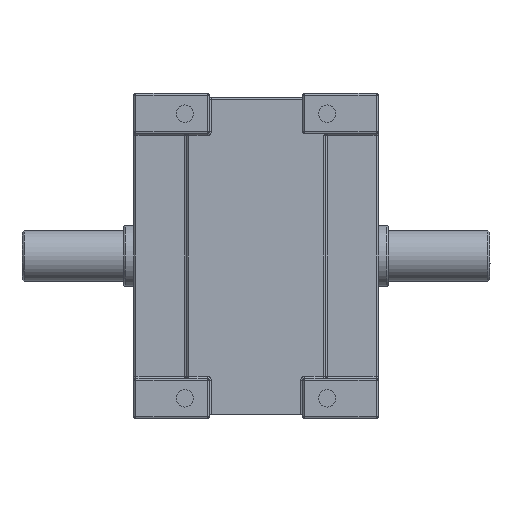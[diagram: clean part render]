
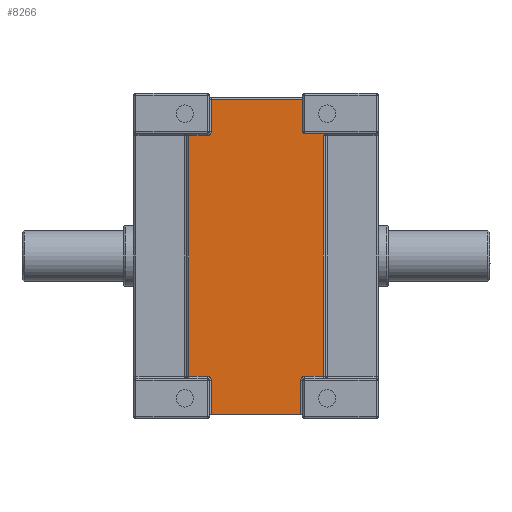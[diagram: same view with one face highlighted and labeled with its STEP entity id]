
A CAD part, front view. The second image highlights one B-rep face of the part: STEP entity #8266.
In plain terms, the highlighted planar face has unit normal (0, -1, 0).
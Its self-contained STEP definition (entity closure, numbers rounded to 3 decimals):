
#196=CARTESIAN_POINT('',(33.,-113.,-21.));
#197=CARTESIAN_POINT('',(33.142,-113.,-20.858));
#198=CARTESIAN_POINT('',(33.414,-113.,-20.588));
#199=CARTESIAN_POINT('',(33.839,-113.,-20.258));
#200=CARTESIAN_POINT('',(34.292,-113.,-20.046));
#201=CARTESIAN_POINT('',(34.585,-113.,-20.));
#202=CARTESIAN_POINT('',(34.732,-113.,-20.));
#214=CARTESIAN_POINT('',(34.732,-113.,-20.));
#251=DIRECTION('',(1.,0.,0.));
#252=VECTOR('',#251,10.732);
#253=CARTESIAN_POINT('',(24.,-113.,-20.));
#254=LINE('',#253,#252);
#255=DIRECTION('',(0.,0.,-1.));
#256=VECTOR('',#255,118.);
#257=CARTESIAN_POINT('',(33.,-113.,-21.));
#258=LINE('',#257,#256);
#259=DIRECTION('',(-1.,0.,0.));
#260=VECTOR('',#259,9.);
#261=CARTESIAN_POINT('',(33.,-113.,-139.));
#262=LINE('',#261,#260);
#263=CARTESIAN_POINT('',(24.,-113.,-141.));
#264=DIRECTION('',(0.,-1.,0.));
#265=DIRECTION('',(0.,0.,1.));
#266=AXIS2_PLACEMENT_3D('',#263,#264,#265);
#268=DIRECTION('',(0.,0.,-1.));
#269=VECTOR('',#268,17.);
#270=CARTESIAN_POINT('',(22.,-113.,-141.));
#271=LINE('',#270,#269);
#272=DIRECTION('',(0.,0.,1.));
#273=VECTOR('',#272,17.);
#274=CARTESIAN_POINT('',(-22.,-113.,-158.));
#275=LINE('',#274,#273);
#276=CARTESIAN_POINT('',(-24.,-113.,-141.));
#277=DIRECTION('',(0.,-1.,0.));
#278=DIRECTION('',(1.,0.,0.));
#279=AXIS2_PLACEMENT_3D('',#276,#277,#278);
#281=DIRECTION('',(-1.,0.,0.));
#282=VECTOR('',#281,9.);
#283=CARTESIAN_POINT('',(-24.,-113.,-139.));
#284=LINE('',#283,#282);
#285=DIRECTION('',(0.,0.,1.));
#286=VECTOR('',#285,118.);
#287=CARTESIAN_POINT('',(-33.,-113.,
-139.));
#288=LINE('',#287,#286);
#289=DIRECTION('',(-1.,0.,0.));
#290=VECTOR('',#289,9.);
#291=CARTESIAN_POINT('',(-24.,-113.,-21.));
#292=LINE('',#291,#290);
#293=CARTESIAN_POINT('',(-24.,-113.,-19.));
#294=DIRECTION('',(0.,1.,0.));
#295=DIRECTION('',(1.,0.,0.));
#296=AXIS2_PLACEMENT_3D('',#293,#294,#295);
#298=DIRECTION('',(0.,0.,-1.));
#299=VECTOR('',#298,16.);
#300=CARTESIAN_POINT('',(-22.,-113.,-3.));
#301=LINE('',#300,#299);
#302=DIRECTION('',(1.,0.,0.));
#303=VECTOR('',#302,45.);
#304=CARTESIAN_POINT('',(-22.,-113.,-3.));
#305=LINE('',#304,#303);
#306=DIRECTION('',(0.,0.,1.));
#307=VECTOR('',#306,16.);
#308=CARTESIAN_POINT('',(23.,-113.,-19.));
#309=LINE('',#308,#307);
#1372=DIRECTION('',(-1.,0.,0.));
#1373=VECTOR('',#1372,44.);
#1374=CARTESIAN_POINT('',(22.,-113.,-158.));
#1375=LINE('',#1374,#1373);
#4517=CARTESIAN_POINT('',(24.,-113.,-19.));
#4518=DIRECTION('',(0.,1.,0.));
#4519=DIRECTION('',(0.,0.,-1.));
#4520=AXIS2_PLACEMENT_3D('',#4517,#4518,#4519);
#7124=CARTESIAN_POINT('',(23.,-113.,-3.));
#7126=VERTEX_POINT('',#7124);
#7133=CARTESIAN_POINT('',(23.,-113.,-19.));
#7134=VERTEX_POINT('',#7133);
#7135=CARTESIAN_POINT('',(24.,-113.,-20.));
#7136=VERTEX_POINT('',#7135);
#7187=CARTESIAN_POINT('',(22.,-113.,-141.));
#7188=CARTESIAN_POINT('',(22.,-113.,-158.));
#7189=VERTEX_POINT('',#7187);
#7190=VERTEX_POINT('',#7188);
#7195=CARTESIAN_POINT('',(24.,-113.,-139.));
#7196=VERTEX_POINT('',#7195);
#7199=CARTESIAN_POINT('',(33.,-113.,-139.));
#7200=VERTEX_POINT('',#7199);
#7205=CARTESIAN_POINT('',(-22.,-113.,-158.));
#7206=VERTEX_POINT('',#7205);
#7209=CARTESIAN_POINT('',(-33.,-113.,-139.));
#7211=VERTEX_POINT('',#7209);
#7215=CARTESIAN_POINT('',(-24.,-113.,-139.));
#7216=VERTEX_POINT('',#7215);
#7219=CARTESIAN_POINT('',(-22.,-113.,-141.));
#7220=VERTEX_POINT('',#7219);
#7225=VERTEX_POINT('',#214);
#7228=CARTESIAN_POINT('',(33.,-113.,-21.));
#7229=VERTEX_POINT('',#7228);
#7230=CARTESIAN_POINT('',(-33.,-113.,-21.));
#7232=VERTEX_POINT('',#7230);
#7238=CARTESIAN_POINT('',(-24.,-113.,-21.));
#7239=VERTEX_POINT('',#7238);
#7242=CARTESIAN_POINT('',(-22.,-113.,-19.));
#7243=VERTEX_POINT('',#7242);
#7246=CARTESIAN_POINT('',(-22.,-113.,-3.));
#7247=VERTEX_POINT('',#7246);
#8227=CARTESIAN_POINT('',(0.,-113.,0.));
#8228=DIRECTION('',(0.,-1.,0.));
#8229=DIRECTION('',(-1.,0.,0.));
#8230=AXIS2_PLACEMENT_3D('',#8227,#8228,#8229);
#8231=PLANE('',#8230);
#8232=ORIENTED_EDGE('',*,*,#8181,.T.);
#8233=ORIENTED_EDGE('',*,*,#8170,.F.);
#8235=ORIENTED_EDGE('',*,*,#8234,.T.);
#8237=ORIENTED_EDGE('',*,*,#8236,.T.);
#8239=ORIENTED_EDGE('',*,*,#8238,.T.);
#8241=ORIENTED_EDGE('',*,*,#8240,.T.);
#8243=ORIENTED_EDGE('',*,*,#8242,.T.);
#8245=ORIENTED_EDGE('',*,*,#8244,.T.);
#8247=ORIENTED_EDGE('',*,*,#8246,.T.);
#8249=ORIENTED_EDGE('',*,*,#8248,.T.);
#8251=ORIENTED_EDGE('',*,*,#8250,.T.);
#8253=ORIENTED_EDGE('',*,*,#8252,.F.);
#8255=ORIENTED_EDGE('',*,*,#8254,.F.);
#8257=ORIENTED_EDGE('',*,*,#8256,.F.);
#8259=ORIENTED_EDGE('',*,*,#8258,.T.);
#8261=ORIENTED_EDGE('',*,*,#8260,.F.);
#8263=ORIENTED_EDGE('',*,*,#8262,.F.);
#8264=EDGE_LOOP('',(#8232,#8233,#8235,#8237,#8239,#8241,#8243,#8245,#8247,#8249,
#8251,#8253,#8255,#8257,#8259,#8261,#8263));
#8265=FACE_OUTER_BOUND('',#8264,.F.);
#203=B_SPLINE_CURVE_WITH_KNOTS('',3,(#196,#197,#198,#199,#200,#201,#202),
.UNSPECIFIED.,.F.,.F.,(4,1,1,1,4),(0.,0.25,0.5,0.75,1.),
.UNSPECIFIED.);
#267=CIRCLE('',#266,2.);
#280=CIRCLE('',#279,2.);
#297=CIRCLE('',#296,2.);
#4521=CIRCLE('',#4520,1.);
#8170=EDGE_CURVE('',#7229,#7225,#203,.T.);
#8181=EDGE_CURVE('',#7136,#7225,#254,.T.);
#8234=EDGE_CURVE('',#7229,#7200,#258,.T.);
#8236=EDGE_CURVE('',#7200,#7196,#262,.T.);
#8238=EDGE_CURVE('',#7196,#7189,#267,.T.);
#8240=EDGE_CURVE('',#7189,#7190,#271,.T.);
#8242=EDGE_CURVE('',#7190,#7206,#1375,.T.);
#8244=EDGE_CURVE('',#7206,#7220,#275,.T.);
#8246=EDGE_CURVE('',#7220,#7216,#280,.T.);
#8248=EDGE_CURVE('',#7216,#7211,#284,.T.);
#8250=EDGE_CURVE('',#7211,#7232,#288,.T.);
#8252=EDGE_CURVE('',#7239,#7232,#292,.T.);
#8254=EDGE_CURVE('',#7243,#7239,#297,.T.);
#8256=EDGE_CURVE('',#7247,#7243,#301,.T.);
#8258=EDGE_CURVE('',#7247,#7126,#305,.T.);
#8260=EDGE_CURVE('',#7134,#7126,#309,.T.);
#8262=EDGE_CURVE('',#7136,#7134,#4521,.T.);
#8266=ADVANCED_FACE('',(#8265),#8231,.T.);
